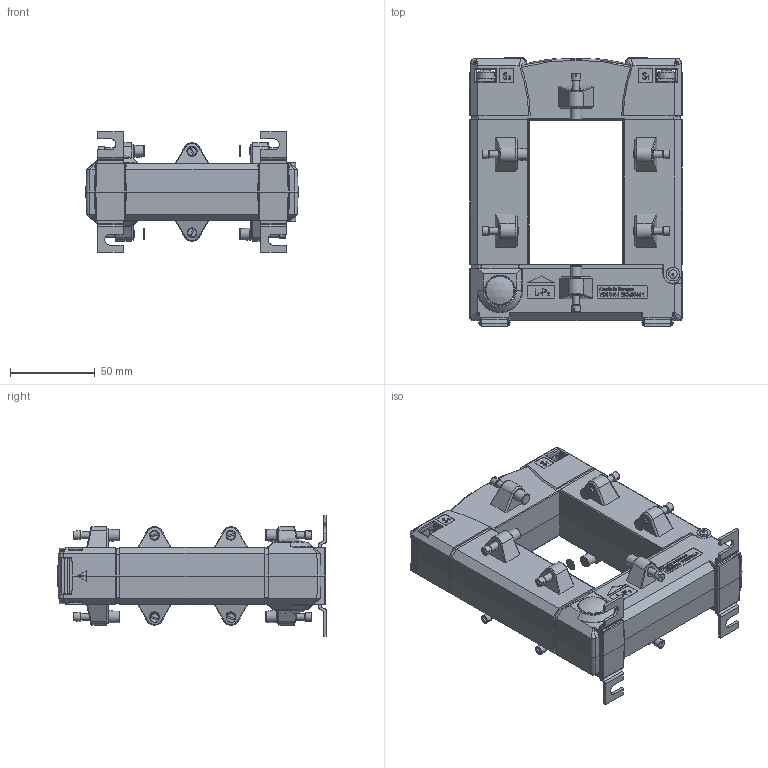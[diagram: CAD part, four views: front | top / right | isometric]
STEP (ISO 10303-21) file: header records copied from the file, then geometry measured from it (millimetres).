
FILE_DESCRIPTION(/* description */ (''),/* implementation_level */ '2;1');
FILE_NAME(/* name */ 'KBU58.stp',/* time_stamp */ '2024-03-05T13:40:56+01:00',/* author */ ('JDI'),/* organization */ (''),/* preprocessor_version */ 'ST-DEVELOPER v19.2',/* originating_system */ 'Autodesk Inventor 2023',/* authorisation */ '');
FILE_SCHEMA (('AUTOMOTIVE_DESIGN { 1 0 10303 214 3 1 1 }'));
Products named in the file (1): KBU58-
Bounding box: 125.4 x 158.15 x 71 mm (x, y, z)
Volume: 190360.3 mm3; surface area: 146400.5 mm2
Topology: 3 solids, 3 shells, 2704 faces, 7224 edges, 4612 vertices
Faces by surface type: plane 1718, cylinder 467, bspline 271, cone 212, sphere 26, torus 10
Full cylindrical faces by diameter (mm): 1.5 x4, 3 x6, 4 x20, 4.1 x12, 5 x23, 5.3 x4, 5.8 x1, 8 x1, 10 x4
Entity records: 103778 total; most frequent: CARTESIAN_POINT 34571, ORIENTED_EDGE 14428, DIRECTION 12930, EDGE_CURVE 7214, LINE 4900, VECTOR 4900, VERTEX_POINT 4612, AXIS2_PLACEMENT_3D 4015
